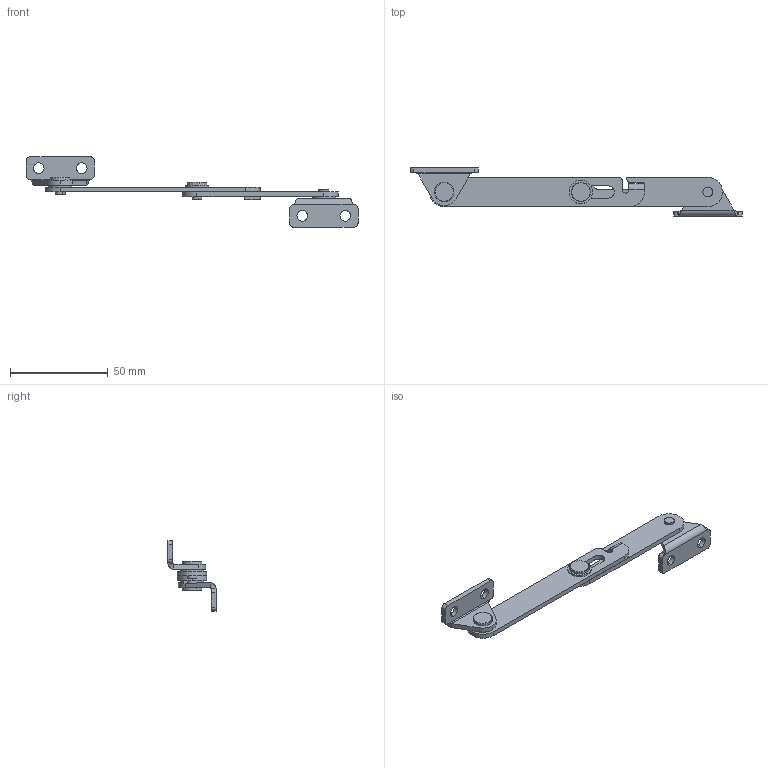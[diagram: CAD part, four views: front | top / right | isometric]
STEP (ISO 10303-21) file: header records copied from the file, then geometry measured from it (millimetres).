
FILE_DESCRIPTION (( 'STEP AP203' ), '1' );
FILE_NAME ('TX091S9C006+TX91-3-Y限位器+3D.STEP', '2022-06-23T08:18:58', ( 'SJ' ), ( '' ), 'SwSTEP 2.0', 'SolidWorks 2020', '' );
FILE_SCHEMA (( 'CONFIG_CONTROL_DESIGN' ));
Length unit declared in the file: millimetre
Products named in the file (6): TX91-3啊裝; TX91-3-Z傅裝; TX91-3盓殤; SUS304-¡é6x12x1 GB.T 95-2002 3390900042; TX91-3穩隊; TX091S9C006+TX91-3-Y限位器+3D
Assembly tree (10 placements, depth 2):
  TX091S9C006+TX91-3-Y限位器+3D
    TX91-3-Z傅裝
    TX91-3啊裝
    TX91-3盓殤  x2
    TX91-3穩隊  x3
    SUS304-¡é6x12x1 GB.T 95-2002 3390900042  x3
Bounding box: 170 x 24.6 x 36 mm (x, y, z)
Volume: 10548.3 mm3; surface area: 11394.1 mm2
Topology: 10 solids, 10 shells, 155 faces, 357 edges, 228 vertices
Faces by surface type: cylinder 81, plane 64, cone 6, bspline 4
Entity records: 3568 total; most frequent: CARTESIAN_POINT 541, DIRECTION 512, ORIENTED_EDGE 444, EDGE_CURVE 222, AXIS2_PLACEMENT_3D 195, VERTEX_POINT 142, LINE 122, VECTOR 122
